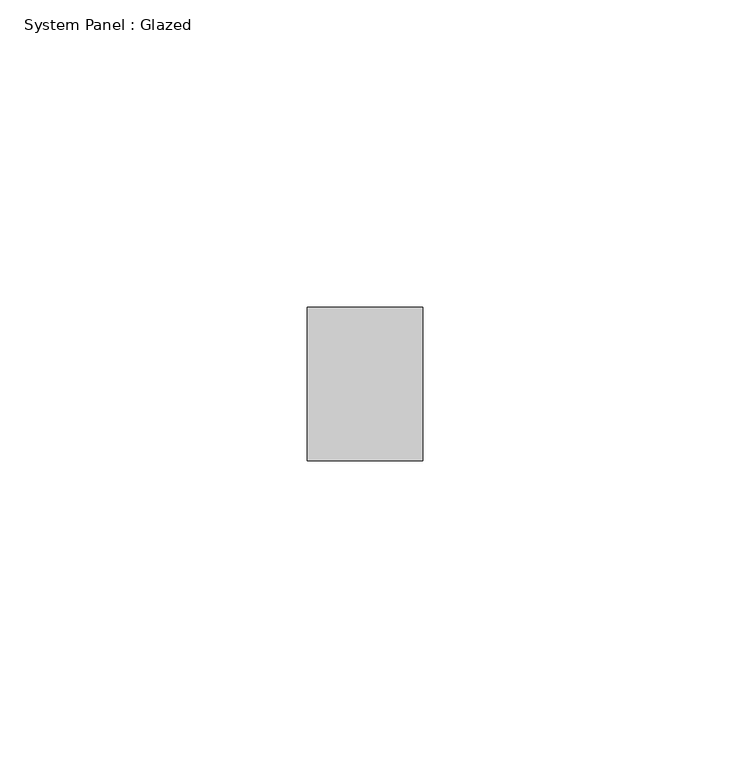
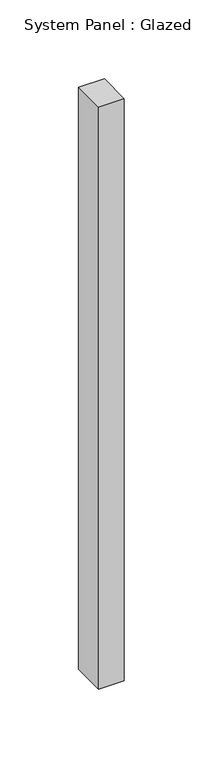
"""IFC4 building model written with IfcOpenShell, lengths in millimetres: plate geometry, System Panel : Glazed."""

import ifcopenshell
import ifcopenshell.guid

model = None  # the IFC model being written
_history = None  # IfcOwnerHistory: only IFC2X3 demands one
_inside = {}  # id of a spatial element -> (the spatial element, [elements in it])
_under = {}  # id of a project, library or spatial element -> (it, [spatial elements below it])
_declared = {}  # id of a project -> (the project, [libraries it declares])
_typed = {}  # id of a type object -> (the type object, [elements of that type])
_made_of = {}  # id of a material, layer set ... -> (it, [elements and type objects made of it])


def new_model(schema):
    """Start an empty IFC model of exactly this schema.

    Asked for "IFC4X3", IfcOpenShell would pick the latest addendum, in which some entities
    have other attributes; the version numbers below select the first issue.
    IFC2X3 requires an IfcOwnerHistory on every rooted entity: one is made here for all.
    """
    global model, _history
    if schema == "IFC4X3":
        model = ifcopenshell.file(schema_version=(4, 3, 0, 0))
    else:
        model = ifcopenshell.file(schema=schema)
    _inside.clear()
    _under.clear()
    _declared.clear()
    _typed.clear()
    _made_of.clear()
    _history = None
    if model.schema == "IFC2X3":
        org = make("IfcOrganization", Name="unknown")
        user = make(
            "IfcPersonAndOrganization",
            ThePerson=make("IfcPerson", FamilyName="unknown"),
            TheOrganization=org,
        )
        app = make(
            "IfcApplication",
            ApplicationDeveloper=org,
            Version="unknown",
            ApplicationFullName="unknown",
            ApplicationIdentifier="unknown",
        )
        _history = make(
            "IfcOwnerHistory",
            OwningUser=user,
            OwningApplication=app,
            ChangeAction="ADDED",
            CreationDate=0,
        )
    return model


def make(cls, **values):
    """One entity of the class cls with the attributes given. An attribute that is None is left unset."""
    return model.create_entity(
        cls, **{name: value for name, value in values.items() if value is not None}
    )


def rooted(cls, **values):
    """An entity with a GlobalId (a new one), such as an element, a storey or a relation."""
    return make(cls, GlobalId=ifcopenshell.guid.new(), OwnerHistory=_history, **values)


def si_unit(unit_type, name, prefix=None):
    """IfcSIUnit, for example si_unit("LENGTHUNIT", "METRE", prefix="MILLI")."""
    return make("IfcSIUnit", UnitType=unit_type, Prefix=prefix, Name=name)


def assignment(units):
    """IfcUnitAssignment: the units of a project."""
    return None if units is None else make("IfcUnitAssignment", Units=units)


def point(xyz):
    """IfcCartesianPoint."""
    return None if xyz is None else make("IfcCartesianPoint", Coordinates=xyz)


def direction(xyz):
    """IfcDirection."""
    return None if xyz is None else make("IfcDirection", DirectionRatios=xyz)


def frame(location, z_axis=None, x_axis=None):
    """IfcAxis2Placement3D, a coordinate frame: its origin and axes. An axis left out is left unset."""
    return make(
        "IfcAxis2Placement3D",
        Location=point(location),
        Axis=direction(z_axis),
        RefDirection=direction(x_axis),
    )


def origin():
    """The frame at (0, 0, 0) with its axes left unset."""
    return frame((0.0, 0.0, 0.0))


def origin_with_axes():
    """The frame at (0, 0, 0) with the z axis (0, 0, 1) and the x axis (1, 0, 0) written out."""
    return frame((0.0, 0.0, 0.0), z_axis=(0.0, 0.0, 1.0), x_axis=(1.0, 0.0, 0.0))


def place(relative_to, where):
    """IfcLocalPlacement: puts the frame where relative to a parent placement (None: the world)."""
    return make(
        "IfcLocalPlacement", PlacementRelTo=relative_to, RelativePlacement=where
    )


def context(
    kind, dimensions, precision=None, world=None, true_north=None, identifier=None
):
    """IfcGeometricRepresentationContext, for example the 3D "Model" context."""
    return make(
        "IfcGeometricRepresentationContext",
        ContextIdentifier=identifier,
        ContextType=kind,
        CoordinateSpaceDimension=dimensions,
        Precision=precision,
        WorldCoordinateSystem=world,
        TrueNorth=true_north,
    )


def project(units=None, contexts=None):
    """IfcProject with its units and contexts."""
    return rooted(
        "IfcProject",
        Name="project",
        RepresentationContexts=contexts,
        UnitsInContext=assignment(units),
    )


def spatial(cls, under=None, at=None, **own):
    """A site, building, storey or space (cls), placed at a placement, below another one or the project."""
    s = rooted(cls, ObjectPlacement=at, **own)
    if under is not None:
        _under.setdefault(under.id(), (under, []))[1].append(s)
    return s


def polyline(points):
    """IfcPolyline through the points."""
    return make("IfcPolyline", Points=[point(p) for p in points])


def outline(outer, holes=None, kind="AREA"):
    """IfcArbitraryClosedProfileDef: a profile drawn as a closed curve; with holes, ...WithVoids."""
    if holes is None:
        return make("IfcArbitraryClosedProfileDef", ProfileType=kind, OuterCurve=outer)
    return make(
        "IfcArbitraryProfileDefWithVoids",
        ProfileType=kind,
        OuterCurve=outer,
        InnerCurves=holes,
    )


def extrude(swept, where, along, depth):
    """IfcExtrudedAreaSolid: the profile swept, set in the frame where, extruded along a direction by depth."""
    return make(
        "IfcExtrudedAreaSolid",
        SweptArea=swept,
        Position=where,
        ExtrudedDirection=direction(along),
        Depth=depth,
    )


def shape(context_of_items, identifier, shape_type, items):
    """IfcShapeRepresentation: the items that make up one representation, for example the "Body"."""
    return make(
        "IfcShapeRepresentation",
        ContextOfItems=context_of_items,
        RepresentationIdentifier=identifier,
        RepresentationType=shape_type,
        Items=items,
    )


def source(mapping_origin, context_of_items, identifier, shape_type, items):
    """IfcRepresentationMap: a shape defined once, which mapped items show again and again."""
    return make(
        "IfcRepresentationMap",
        MappingOrigin=mapping_origin,
        MappedRepresentation=shape(context_of_items, identifier, shape_type, items),
    )


def transform(
    local_origin,
    x_axis=None,
    y_axis=None,
    z_axis=None,
    scale=None,
    scale2=None,
    scale3=None,
    uniform=True,
):
    """IfcCartesianTransformationOperator3D, or its non-uniform kind. x_axis, y_axis, z_axis: its Axis1, 2, 3."""
    if uniform:
        return make(
            "IfcCartesianTransformationOperator3D",
            Axis1=direction(x_axis),
            Axis2=direction(y_axis),
            LocalOrigin=point(local_origin),
            Scale=scale,
            Axis3=direction(z_axis),
        )
    return make(
        "IfcCartesianTransformationOperator3DnonUniform",
        Axis1=direction(x_axis),
        Axis2=direction(y_axis),
        LocalOrigin=point(local_origin),
        Scale=scale,
        Axis3=direction(z_axis),
        Scale2=scale2,
        Scale3=scale3,
    )


def mapped(mapping_source, mapping_target):
    """IfcMappedItem: shows the shape of a source again, moved by a transform."""
    return make(
        "IfcMappedItem", MappingSource=mapping_source, MappingTarget=mapping_target
    )


def made_of(thing, what):
    """Note that an element or type object is made of a material, layer set ...; save() writes the relation."""
    if what is not None:
        _made_of.setdefault(what.id(), (what, []))[1].append(thing)
    return thing


def element(
    cls,
    number,
    at=None,
    inside=None,
    cuts=None,
    type_object=None,
    material=None,
    context=None,
    identifier="Body",
    shape_type=None,
    held_by="IfcProductDefinitionShape",
    body=None,
    shapes=None,
    **own,
):
    """One element of the class cls, such as IfcWall. Its Tag is "e" and its number.

    at: its placement. inside: the storey or other place that contains it. cuts: it is an
    opening in that element (IfcRelVoidsElement). A single representation is given by context,
    identifier, shape_type and body (its items); several are given by shapes. held_by: the class
    of the entity that holds the representations. save() writes the other relations.
    """
    e = rooted(cls, Tag="e%d" % number, ObjectPlacement=at, **own)
    if body is not None:
        shapes = [shape(context, identifier, shape_type, body)]
    if shapes is not None:
        e.Representation = make(held_by, Representations=shapes)
    if inside is not None:
        _inside.setdefault(inside.id(), (inside, []))[1].append(e)
    if cuts is not None:
        rooted(
            "IfcRelVoidsElement", RelatingBuildingElement=cuts, RelatedOpeningElement=e
        )
    if type_object is not None:
        _typed.setdefault(type_object.id(), (type_object, []))[1].append(e)
    return made_of(e, material)


def aggregate(whole, parts):
    """IfcRelAggregates: a whole, such as a stair, and the parts it consists of."""
    return rooted("IfcRelAggregates", RelatingObject=whole, RelatedObjects=parts)


def save(model, path):
    """Write the relations noted so far, then the file.

    IfcRelAggregates (storeys below a building ...), IfcRelContainedInSpatialStructure (elements
    in a storey), IfcRelDefinesByType, IfcRelAssociatesMaterial and IfcRelDeclares: one each for
    every whole, place, type object, material and project.
    """
    for whole, parts in _under.values():
        aggregate(whole, parts)
    for where, things in _inside.values():
        rooted(
            "IfcRelContainedInSpatialStructure",
            RelatedElements=things,
            RelatingStructure=where,
        )
    for kind, things in _typed.values():
        rooted("IfcRelDefinesByType", RelatedObjects=things, RelatingType=kind)
    for what, things in _made_of.values():
        rooted("IfcRelAssociatesMaterial", RelatedObjects=things, RelatingMaterial=what)
    for by, libraries in _declared.values():
        rooted("IfcRelDeclares", RelatingContext=by, RelatedDefinitions=libraries)
    model.write(path)


def system_panel_glazed_452d36e2(model_context):
    return source(origin(), model_context, "Body", "SweptSolid", [
        extrude(outline(polyline([(9.4081169, -12.5), (-9.4081169, -12.5), (-9.4081169, 12.5), (9.4081169, 12.5), (9.4081169, -12.5)])), origin_with_axes(), (0.0, 0.0, 1.0), 450.0),
    ])


if __name__ == "__main__":
    model = new_model("IFC4")
    model_context = context("Model", 3, world=origin())
    ifc_project = project(units=[si_unit("LENGTHUNIT", "METRE", prefix="MILLI")], contexts=[model_context])
    site = spatial("IfcSite", under=ifc_project)
    building = spatial("IfcBuilding", under=site)
    placement = place(None, origin())
    system_panel_glazed_shape = system_panel_glazed_452d36e2(model_context)
    element("IfcPlate", 1, ObjectType="System Panel : Glazed", at=placement, inside=building, context=model_context, shape_type="MappedRepresentation", body=[
        mapped(system_panel_glazed_shape, transform((0.0, 0.0, 0.0), x_axis=(1.0, 0.0, 0.0), y_axis=(0.0, 1.0, 0.0), z_axis=(0.0, 0.0, 1.0))),
    ])
    save(model, "model.ifc")
